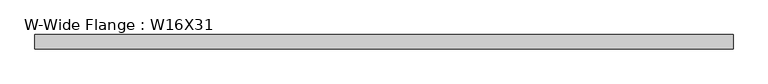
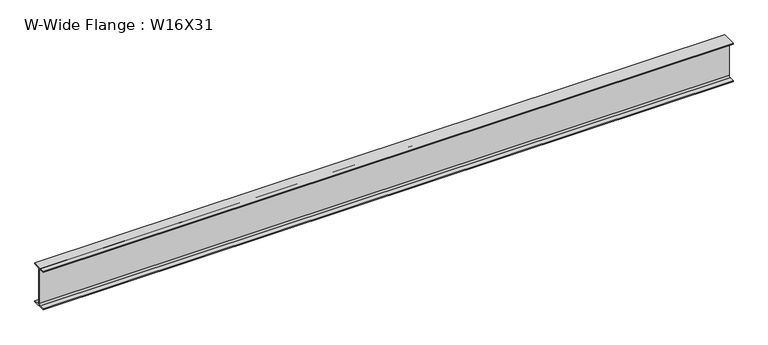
"""IFC4 building model written with IfcOpenShell, lengths in millimetres: beam geometry, W-Wide Flange : W16X31."""

from ifc_helpers import new_model, si_unit, point, frame, frame_2d, origin, place, context, project, spatial, polyline, circle_curve, trimmed, segment, composite_curve, outline, extrude, source, transform, mapped, element, save


def w_wide_flange_w16x31_34482971(model_context):
    return source(origin(), model_context, "Body", "SweptSolid", [
        extrude(outline(composite_curve([segment(polyline([(70.231, -190.754), (70.231, -201.93), (-70.231, -201.93), (-70.231, -190.754), (-20.8915, -190.754)]), True, "CONTINUOUS"), segment(trimmed(circle_curve(frame_2d((-20.8915, -173.355)), 17.399), [point((-20.8915, -190.754))], [point((-3.4925, -173.355))], True, "CARTESIAN"), True, "CONTINUOUS"), segment(polyline([(-3.4925, -173.355), (-3.4925, 173.355)]), True, "CONTINUOUS"), segment(trimmed(circle_curve(frame_2d((-20.8915, 173.355)), 17.399), [point((-3.4925, 173.355))], [point((-20.8915, 190.754))], True, "CARTESIAN"), True, "CONTINUOUS"), segment(polyline([(-20.8915, 190.754), (-70.231, 190.754), (-70.231, 201.93), (70.231, 201.93), (70.231, 190.754), (20.8915, 190.754)]), True, "CONTINUOUS"), segment(trimmed(circle_curve(frame_2d((20.8915, 173.355)), 17.399), [point((20.8915, 190.754))], [point((3.4925, 173.355))], True, "CARTESIAN"), True, "CONTINUOUS"), segment(polyline([(3.4925, 173.355), (3.4925, -173.355)]), True, "CONTINUOUS"), segment(trimmed(circle_curve(frame_2d((20.8915, -173.355)), 17.399), [point((3.4925, -173.355))], [point((20.8915, -190.754))], True, "CARTESIAN"), True, "CONTINUOUS"), segment(polyline([(20.8915, -190.754), (70.231, -190.754)]), True, "CONTINUOUS")], self_intersect=False)), frame((-3413.0955194, 0.0, 0.0), z_axis=(1.0, 0.0, 0.0), x_axis=(0.0, 1.0, 0.0)), (0.0, 0.0, 1.0), 6793.3379351),
    ])


if __name__ == "__main__":
    model = new_model("IFC4")
    model_context = context("Model", 3, world=origin())
    ifc_project = project(units=[si_unit("LENGTHUNIT", "METRE", prefix="MILLI")], contexts=[model_context])
    site = spatial("IfcSite", under=ifc_project)
    building = spatial("IfcBuilding", under=site)
    placement = place(None, origin())
    w_wide_flange_w16x31_shape = w_wide_flange_w16x31_34482971(model_context)
    element("IfcBeam", 1, ObjectType="W-Wide Flange : W16X31", at=placement, inside=building, context=model_context, shape_type="MappedRepresentation", body=[
        mapped(w_wide_flange_w16x31_shape, transform((0.0, 0.0, 0.0), x_axis=(1.0, 0.0, 0.0), y_axis=(0.0, 1.0, 0.0), z_axis=(0.0, 0.0, 1.0))),
    ])
    save(model, "model.ifc")
